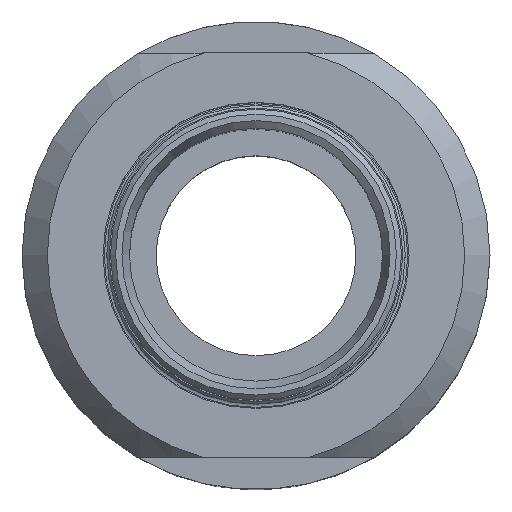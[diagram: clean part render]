
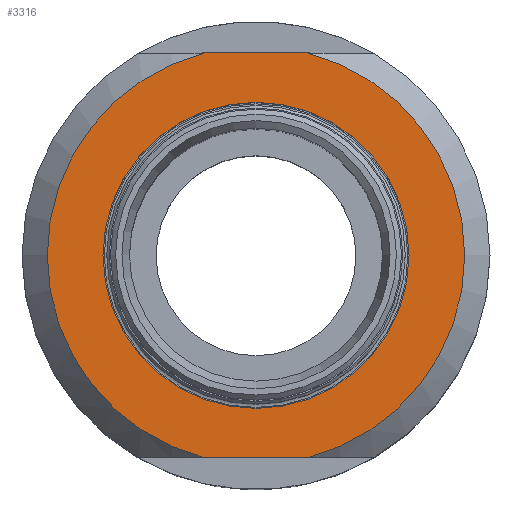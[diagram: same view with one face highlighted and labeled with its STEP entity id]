
A CAD part, top view. The second image highlights one B-rep face of the part: STEP entity #3316.
In plain terms, the highlighted planar face has unit normal (0, 0, 1).
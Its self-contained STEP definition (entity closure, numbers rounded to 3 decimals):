
#55 = CARTESIAN_POINT ( 'NONE',  ( 2.016, 8., 21.05 ) ) ;
#122 = AXIS2_PLACEMENT_3D ( 'NONE', #3225, #937, #3135 ) ;
#154 = CARTESIAN_POINT ( 'NONE',  ( 2.016, -8., 21.05 ) ) ;
#158 = EDGE_LOOP ( 'NONE', ( #3767, #2446, #2373, #3306 ) ) ;
#286 = EDGE_CURVE ( 'NONE', #1133, #2646, #1890, .T. ) ;
#339 = CARTESIAN_POINT ( 'NONE',  ( -23.067, -8., 21.05 ) ) ;
#444 = EDGE_CURVE ( 'NONE', #1133, #1969, #3900, .T. ) ;
#491 = EDGE_CURVE ( 'NONE', #1077, #1077, #3215, .T. ) ;
#559 = CARTESIAN_POINT ( 'NONE',  ( -2.016, -8., 21.05 ) ) ;
#609 = PLANE ( 'NONE',  #3714 ) ;
#743 = EDGE_LOOP ( 'NONE', ( #4147 ) ) ;
#858 = CARTESIAN_POINT ( 'NONE',  ( 0., 0., 21.05 ) ) ;
#900 = FACE_OUTER_BOUND ( 'NONE', #158, .T. ) ;
#937 = DIRECTION ( 'NONE',  ( 0., 0., -1. ) ) ;
#945 = VECTOR ( 'NONE', #1605, 1000. ) ;
#946 = CARTESIAN_POINT ( 'NONE',  ( 0., 8.25, 21.05 ) ) ;
#1077 = VERTEX_POINT ( 'NONE', #2637 ) ;
#1110 = DIRECTION ( 'NONE',  ( -1., 0., 0. ) ) ;
#1133 = VERTEX_POINT ( 'NONE', #559 ) ;
#1432 = DIRECTION ( 'NONE',  ( 0., 0., -1. ) ) ;
#1565 = CIRCLE ( 'NONE', #3025, 8.25 ) ;
#1580 = DIRECTION ( 'NONE',  ( -1., 0., 0. ) ) ;
#1605 = DIRECTION ( 'NONE',  ( 1., 0., 0. ) ) ;
#1890 = LINE ( 'NONE', #339, #945 ) ;
#1891 = DIRECTION ( 'NONE',  ( 0., 0., 1. ) ) ;
#1926 = DIRECTION ( 'NONE',  ( 0., 0., -1. ) ) ;
#1933 = DIRECTION ( 'NONE',  ( 1., 0., 0. ) ) ;
#1969 = VERTEX_POINT ( 'NONE', #4153 ) ;
#2111 = EDGE_CURVE ( 'NONE', #2335, #1969, #2218, .T. ) ;
#2218 = LINE ( 'NONE', #3499, #3648 ) ;
#2335 = VERTEX_POINT ( 'NONE', #55 ) ;
#2373 = ORIENTED_EDGE ( 'NONE', *, *, #2601, .F. ) ;
#2446 = ORIENTED_EDGE ( 'NONE', *, *, #286, .T. ) ;
#2601 = EDGE_CURVE ( 'NONE', #2335, #2646, #1565, .T. ) ;
#2637 = CARTESIAN_POINT ( 'NONE',  ( -6.05, 0., 21.05 ) ) ;
#2646 = VERTEX_POINT ( 'NONE', #154 ) ;
#3006 = AXIS2_PLACEMENT_3D ( 'NONE', #3160, #1926, #1580 ) ;
#3025 = AXIS2_PLACEMENT_3D ( 'NONE', #858, #1432, #1110 ) ;
#3135 = DIRECTION ( 'NONE',  ( -1., 0., 0. ) ) ;
#3160 = CARTESIAN_POINT ( 'NONE',  ( 0., 0., 21.05 ) ) ;
#3215 = CIRCLE ( 'NONE', #122, 6.05 ) ;
#3225 = CARTESIAN_POINT ( 'NONE',  ( 0., 0., 21.05 ) ) ;
#3306 = ORIENTED_EDGE ( 'NONE', *, *, #2111, .T. ) ;
#3316 = ADVANCED_FACE ( 'NONE', ( #3855, #900 ), #609, .T. ) ;
#3499 = CARTESIAN_POINT ( 'NONE',  ( -23.067, 8., 21.05 ) ) ;
#3543 = DIRECTION ( 'NONE',  ( -1., 0., 0. ) ) ;
#3648 = VECTOR ( 'NONE', #3543, 1000. ) ;
#3714 = AXIS2_PLACEMENT_3D ( 'NONE', #946, #1891, #1933 ) ;
#3767 = ORIENTED_EDGE ( 'NONE', *, *, #444, .F. ) ;
#3855 = FACE_BOUND ( 'NONE', #743, .T. ) ;
#3900 = CIRCLE ( 'NONE', #3006, 8.25 ) ;
#4147 = ORIENTED_EDGE ( 'NONE', *, *, #491, .T. ) ;
#4153 = CARTESIAN_POINT ( 'NONE',  ( -2.016, 8., 21.05 ) ) ;
